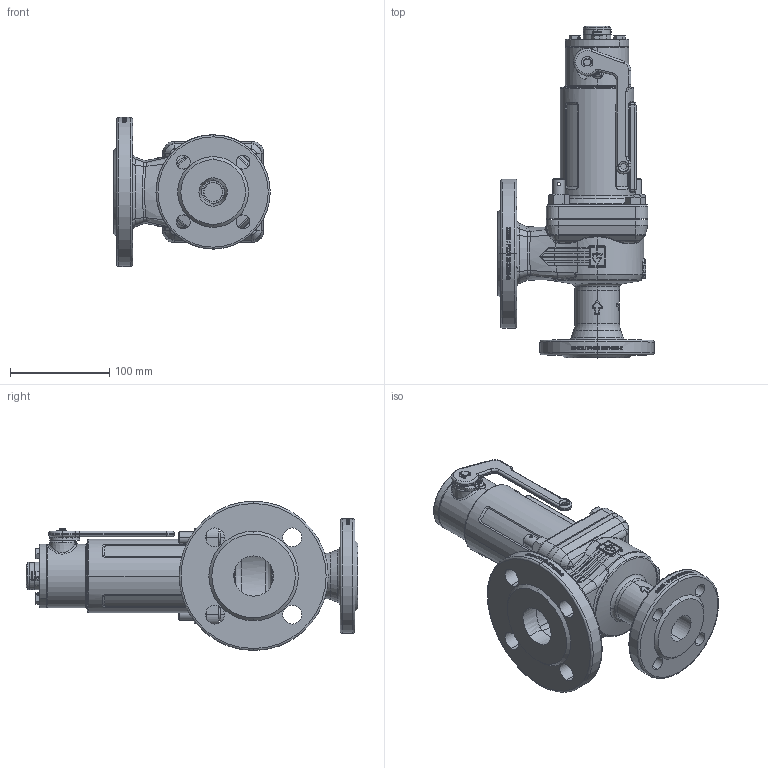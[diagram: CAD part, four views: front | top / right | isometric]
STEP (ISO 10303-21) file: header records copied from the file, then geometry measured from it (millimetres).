
FILE_DESCRIPTION (( 'STEP AP214' ), '1' );
FILE_NAME ('355sGL_25_FLFL_2540.STEP', '2020-01-09T14:06:51', ( '' ), ( '' ), 'SwSTEP 2.0', 'SolidWorks 2018', '' );
FILE_SCHEMA (( 'AUTOMOTIVE_DESIGN' ));
Length unit declared in the file: millimetre
Products named in the file (1): 355sGL_25_FLFL_2540
Bounding box: 157.5 x 334 x 150 mm (x, y, z)
Volume: 1204229.5 mm3; surface area: 295118.1 mm2
Topology: 21 solids, 21 shells, 2224 faces, 5958 edges, 3970 vertices
Faces by surface type: bspline 652, cylinder 604, plane 570, cone 231, torus 139, sphere 28
Entity records: 170377 total; most frequent: CARTESIAN_POINT 94482, ORIENTED_EDGE 11830, DIRECTION 8920, EDGE_CURVE 5915, VERTEX_POINT 3967, AXIS2_PLACEMENT_3D 3586, EDGE_LOOP 2536, UNCERTAINTY_MEASURE_WITH_UNIT 2247
